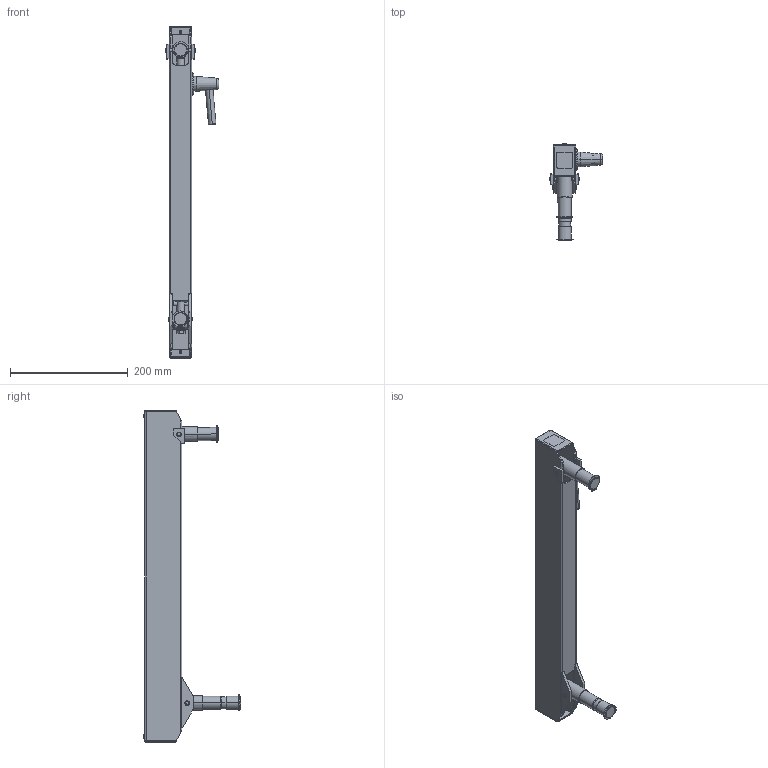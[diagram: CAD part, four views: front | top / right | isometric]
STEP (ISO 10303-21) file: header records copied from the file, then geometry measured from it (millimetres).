
FILE_DESCRIPTION (( 'STEP AP203' ), '1' );
FILE_NAME ('70-1833-00 REV AA, FLEX SECTION, 18in, 6-33 LB - HORIZONTAL.STEP', '2025-06-10T23:22:44', ( '' ), ( '' ), 'SwSTEP 2.0', 'SolidWorks 2025', '' );
FILE_SCHEMA (( 'CONFIG_CONTROL_DESIGN' ));
Length unit declared in the file: inch
Products named in the file (32): 71-1051-RX REV AA, SPRING BLOCK; 71-0028-RX REV AA, TAB, MOUNT_MACHINE; 006-059-00; 71-0037-RX REV AA, PIVOT, THREADED; 011-033-00; 004-050-00, WASHER, FIBER, .032 THK, .265ID; 002-041-00_002-041-00; 70-1833-00 REV AA, FLEX SECTION, 18in, 6-33 LB - HORIZONTAL; 71-1801-BLKX REV AA, FLEX HOUSING, 18in, BLACK; 71-0071-RX REV AA, AXLE PIN, LONG; 71-0029-RX REV AA, TAB, LOAD; 006-004-00_006-004-00; 71-0040-RX REV AA, BRAKE BLOCK, WIDE_MACHINE; 71-0031-RX REV AA, KNUCKLE, MOUNT_MACHINE; 71-1800-RX REV AA, HOUSING, 18in FLEX; 010-011-00, RETAINING RING, EXT, .250 SHAFT_010-011-00; 11-0027-RX REV AA, PLASTIC DISC, BRAKE ASSEMBLY_MACHINE; 71-0030-RX REV AA, KNUCKLE, LOAD_MACHINE; 11-0650-00 REV AA, BRAKE HANDLE ASSEMBLY; 004-144-00; 71-0070-RX REV AA, AXLE PIN, SHORT; 71-0038-RX REV AA, PIVOT, KNUCKLE, ELECTROLESS NICKEL; 010-012-00, RETAINING RING, EXTERNAL, .875in SHAFT; 71-3033-99 REV AA, BOLT, ADJUSTING, 15.250; 011-020-00 REV AA, PIN, KNURLED, 1.0LG x .25OD; 005-084-00, BOLT, 1''4-20x2.75; 71-2032-RX REV AA, SPRING ROD, 18in FLEX; 016-070-00, BEARING, PLASTIC, .5ID x .625 OD x .75; 013-037-00, SPRING, GREEN, 1x12; 11-0601-99 REV AA, CONICAL KNOB, BRAKE ASSEMBLY; 11-0602-RX REV AA, HANDLE, BRAKE ASSEMBLY; 71-0972-99 REV AA, END CAP, FLEX
Assembly tree (48 placements, depth 3):
  70-1833-00 REV AA, FLEX SECTION, 18in, 6-33 LB - HORIZONTAL
    71-0031-RX REV AA, KNUCKLE, MOUNT_MACHINE
    71-2032-RX REV AA, SPRING ROD, 18in FLEX
    71-0030-RX REV AA, KNUCKLE, LOAD_MACHINE
    71-0038-RX REV AA, PIVOT, KNUCKLE, ELECTROLESS NICKEL
    71-3033-99 REV AA, BOLT, ADJUSTING, 15.250
    71-0040-RX REV AA, BRAKE BLOCK, WIDE_MACHINE
    11-0027-RX REV AA, PLASTIC DISC, BRAKE ASSEMBLY_MACHINE
    71-1051-RX REV AA, SPRING BLOCK
    71-0037-RX REV AA, PIVOT, THREADED
    71-0972-99 REV AA, END CAP, FLEX  x2
    11-0650-00 REV AA, BRAKE HANDLE ASSEMBLY
      11-0601-99 REV AA, CONICAL KNOB, BRAKE ASSEMBLY
      11-0602-RX REV AA, HANDLE, BRAKE ASSEMBLY
      11-0027-RX REV AA, PLASTIC DISC, BRAKE ASSEMBLY_MACHINE
      005-084-00, BOLT, 1''4-20x2.75
    71-0071-RX REV AA, AXLE PIN, LONG
    71-1801-BLKX REV AA, FLEX HOUSING, 18in, BLACK
      71-1800-RX REV AA, HOUSING, 18in FLEX
      71-0029-RX REV AA, TAB, LOAD  x2
      71-0028-RX REV AA, TAB, MOUNT_MACHINE  x2
    71-0070-RX REV AA, AXLE PIN, SHORT
    010-011-00, RETAINING RING, EXT, .250 SHAFT_010-011-00  x4
    002-041-00_002-041-00  x2
    010-012-00, RETAINING RING, EXTERNAL, .875in SHAFT  x2
    011-020-00 REV AA, PIN, KNURLED, 1.0LG x .25OD  x2
    011-033-00
    004-144-00  x3
    013-037-00, SPRING, GREEN, 1x12
    016-070-00, BEARING, PLASTIC, .5ID x .625 OD x .75  x2
    006-059-00
    006-004-00_006-004-00  x2
    004-050-00, WASHER, FIBER, .032 THK, .265ID  x4
Bounding box: 91.63 x 165.23 x 564.9 mm (x, y, z)
Volume: 591848.8 mm3; surface area: 388072 mm2
Topology: 48 solids, 48 shells, 1040 faces, 2551 edges, 1600 vertices
Faces by surface type: cylinder 431, plane 357, cone 181, torus 45, bspline 20, sphere 6
Entity records: 53240 total; most frequent: CARTESIAN_POINT 32252, ORIENTED_EDGE 3592, DIRECTION 3567, EDGE_CURVE 1796, AXIS2_PLACEMENT_3D 1365, VERTEX_POINT 1126, LINE 837, VECTOR 837
